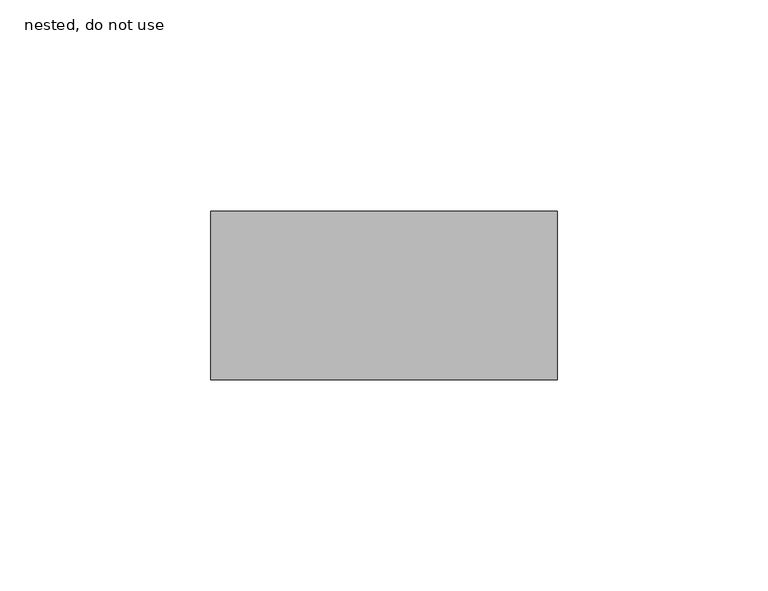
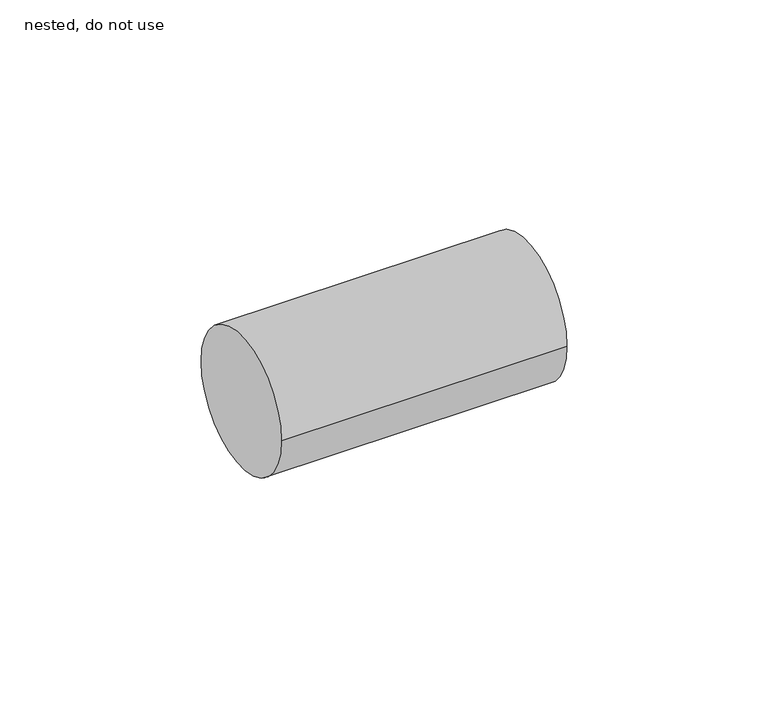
"""IFC4 building model written with IfcOpenShell, lengths in millimetres: pipe fitting geometry, NLRS_52_PIF_UN_Vacurain Flex spiebus_SH_Dyka : nested, do not use."""

from ifc_helpers import new_model, si_unit, point, frame, origin, origin_2d, place, context, project, spatial, circle_curve, trimmed, segment, composite_curve, outline, extrude, source, transform, mapped, element, save


def nested_do_not_use_587135c4(model_context):
    return source(origin(), model_context, "Body", "SweptSolid", [
        extrude(outline(composite_curve([segment(trimmed(circle_curve(origin_2d(), 20.0), [point((-20.0, 0.0))], [point((20.0, 0.0))], False, "CARTESIAN"), True, "CONTINUOUS"), segment(trimmed(circle_curve(origin_2d(), 20.0), [point((20.0, 0.0))], [point((-20.0, 0.0))], False, "CARTESIAN"), True, "CONTINUOUS")], self_intersect=False)), frame((-41.0, 0.0, 0.0), z_axis=(1.0, 0.0, 0.0), x_axis=(0.0, 1.0, 0.0)), (0.0, 0.0, 1.0), 82.0),
    ])


if __name__ == "__main__":
    model = new_model("IFC4")
    model_context = context("Model", 3, world=origin())
    ifc_project = project(units=[si_unit("LENGTHUNIT", "METRE", prefix="MILLI")], contexts=[model_context])
    site = spatial("IfcSite", under=ifc_project)
    building = spatial("IfcBuilding", under=site)
    placement = place(None, origin())
    nested_do_not_use_shape = nested_do_not_use_587135c4(model_context)
    element("IfcPipeFitting", 1, ObjectType="NLRS_52_PIF_UN_Vacurain Flex spiebus_SH_Dyka : nested, do not use", at=placement, inside=building, context=model_context, shape_type="MappedRepresentation", body=[
        mapped(nested_do_not_use_shape, transform((0.0, 0.0, 0.0), x_axis=(1.0, 0.0, 0.0), y_axis=(0.0, 1.0, 0.0), z_axis=(0.0, 0.0, 1.0))),
    ])
    save(model, "model.ifc")
